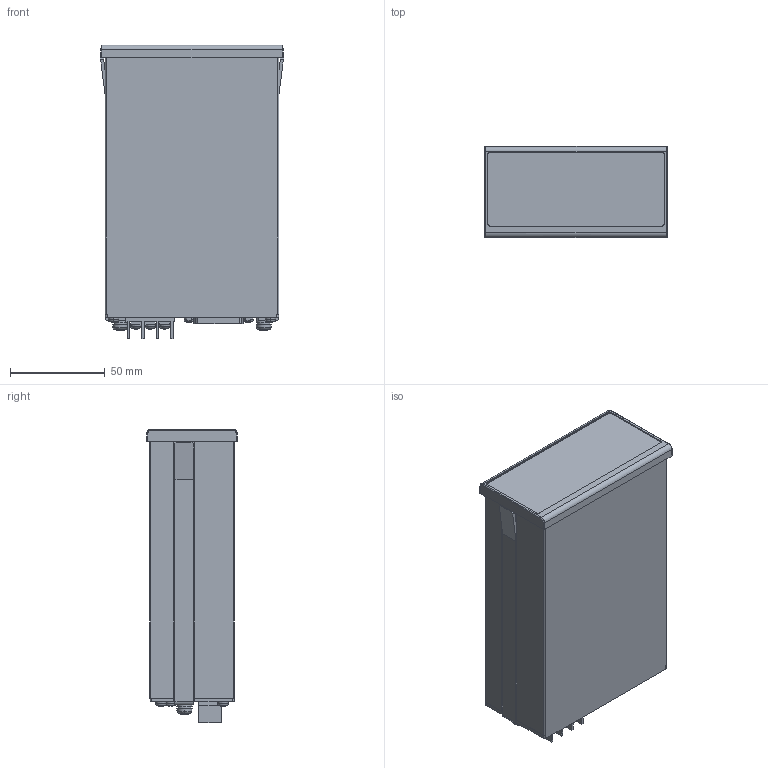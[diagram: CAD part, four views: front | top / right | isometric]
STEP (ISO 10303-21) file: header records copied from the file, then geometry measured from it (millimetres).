
FILE_DESCRIPTION(('Creo Elements/Direct Modeling STEP Export'),'2;1');
FILE_NAME('EG-101D.stp','2017-05-29T18:12:30',(''),(''),'Creo Elements/Direct Modeling STEP processor for AP214 (Solid Model)','Creo Elements/Direct Modeling 18.1B 29-Sep-2012 (C) Parametric Technology GmbH','');
FILE_SCHEMA(('AUTOMOTIVE_DESIGN { 1 0 10303 214 1 1 1 1 }'));
Length unit declared in the file: millimetre
Products named in the file (1): EGカウンタ外観
Bounding box: 96.48 x 48 x 154.6 mm (x, y, z)
Volume: 582027.4 mm3; surface area: 58888.1 mm2
Topology: 1 solids, 1 shells, 743 faces, 2005 edges, 1295 vertices
Faces by surface type: plane 573, cylinder 100, cone 22, torus 22, sphere 22, bspline 4
Entity records: 26425 total; most frequent: CARTESIAN_POINT 6246, ORIENTED_EDGE 4010, DIRECTION 3543, EDGE_CURVE 2005, VECTOR 1443, LINE 1443, VERTEX_POINT 1295, AXIS2_PLACEMENT_3D 1050
